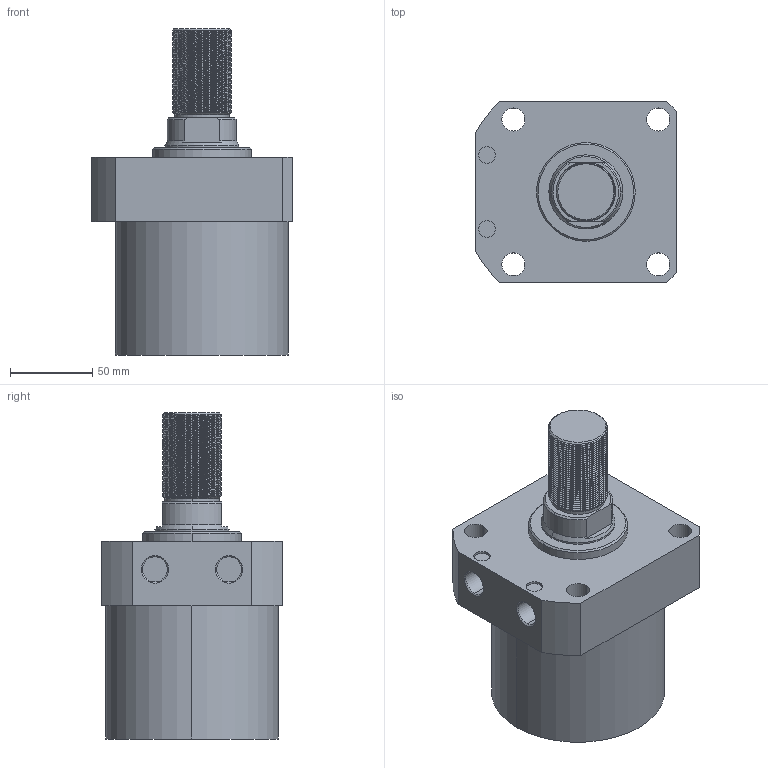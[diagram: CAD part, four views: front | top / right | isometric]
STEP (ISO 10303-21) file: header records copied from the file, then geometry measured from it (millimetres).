
FILE_DESCRIPTION (( 'STEP AP214' ), '1' );
FILE_NAME ('CLLR-105CT-060.STEP', '2020-01-09T08:01:07', ( 'Windows' ), ( 'Microsoft' ), 'SwSTEP 2.0', 'SolidWorks 2015', '' );
FILE_SCHEMA (( 'AUTOMOTIVE_DESIGN' ));
Length unit declared in the file: millimetre
Products named in the file (1): CLLR-105CT-060
Bounding box: 122 x 110 x 198 mm (x, y, z)
Volume: 1274343.8 mm3; surface area: 90997.5 mm2
Topology: 1 solids, 1 shells, 135 faces, 362 edges, 237 vertices
Faces by surface type: cylinder 97, plane 20, cone 16, bspline 2
Entity records: 7907 total; most frequent: CARTESIAN_POINT 4848, ORIENTED_EDGE 724, DIRECTION 556, EDGE_CURVE 362, VERTEX_POINT 237, AXIS2_PLACEMENT_3D 211, EDGE_LOOP 151, ADVANCED_FACE 135
